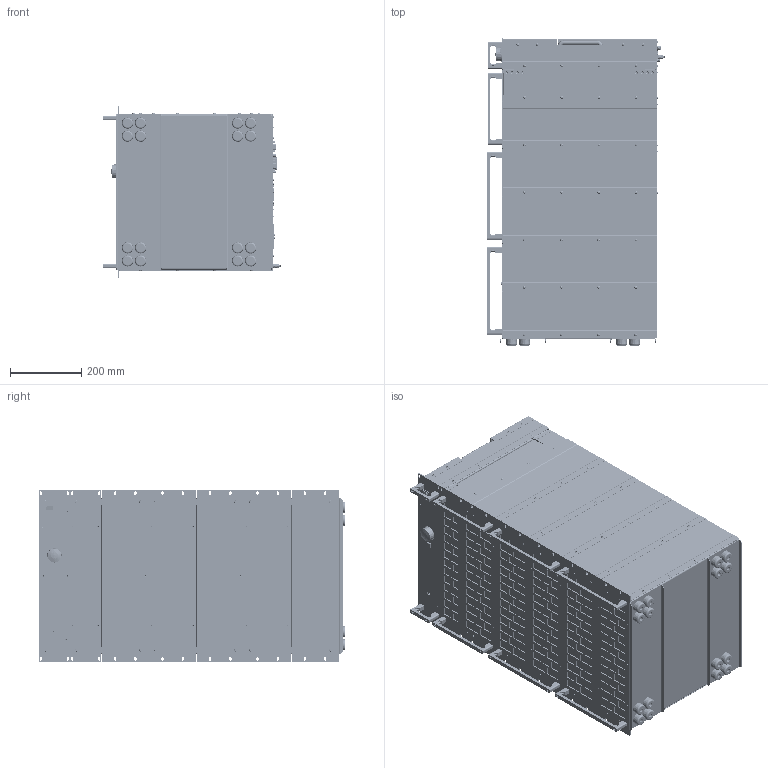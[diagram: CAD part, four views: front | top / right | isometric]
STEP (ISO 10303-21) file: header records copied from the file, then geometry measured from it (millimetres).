
FILE_DESCRIPTION(('STEP AP214'),'1');
FILE_NAME('ACL_M13_19Z_19HE_PH3_15_ST125_BRA_3D_02.step','2020-02-20T10:20:42',(' '),(' '),'Spatial InterOp 3D',' ',' ');
FILE_SCHEMA(('AUTOMOTIVE_DESIGN { 1 0 10303 214 1 1 1 1 }'));
Length unit declared in the file: millimetre
Products named in the file (27): *U521; *U522; *U523; *U515; *U516; *U517; 2073_Seitenteil_2HE_3D_01; 2081_Frontplatte_Leistungsteil_2HE_3D_01; 2075_Rückwand_Leistungsteil_2HE_3D_01; 2076_ACL_2HE_Seitenprofil_links_3D_01; 2077_ACL_2HE_Seitenprofil_rechts_3D_01; *U510; *U511; *U512; *U431; *U432; *U433; *U434; *U435; *U436; *U437; *U468; 2078_ACL_IO Panel_02; 2085_ACL_Rückwand_Steuerteil_Single_Phase_mit_Druck_3D_02; *U469; AutoCreatedBlock_2485
Assembly tree (182 placements, depth 2):
  (unnamed)
    *U521  x8
    *U522  x6
    *U523  x8
    *U515  x32
    *U516  x24
    *U517  x32
    2073_Seitenteil_2HE_3D_01  x2
    2081_Frontplatte_Leistungsteil_2HE_3D_01
    2075_Rückwand_Leistungsteil_2HE_3D_01
    2076_ACL_2HE_Seitenprofil_links_3D_01
    2077_ACL_2HE_Seitenprofil_rechts_3D_01
    *U510  x6
    *U511  x8
    *U512  x4
    *U431  x2
    *U432
    *U433  x3
    *U434  x2
    *U435  x2
    *U436  x13
    *U437  x16
    *U468  x2
    2078_ACL_IO Panel_02
    2085_ACL_Rückwand_Steuerteil_Single_Phase_mit_Druck_3D_02
    *U469  x4
    AutoCreatedBlock_2485
Bounding box: 498.4 x 861.43 x 482.61 mm (x, y, z)
Volume: 5023429 mm3; surface area: 7683866.7 mm2
Topology: 427 solids, 646 shells, 31763 faces, 79565 edges, 49641 vertices
Faces by surface type: plane 14827, cone 11141, cylinder 5030, sphere 334, torus 229, bspline 202
Entity records: 958409 total; most frequent: CARTESIAN_POINT 163010, DIRECTION 124708, ORIENTED_EDGE 121676, EDGE_CURVE 61299, LINE 43594, VECTOR 43594, AXIS2_PLACEMENT_3D 40557, VERTEX_POINT 38861
